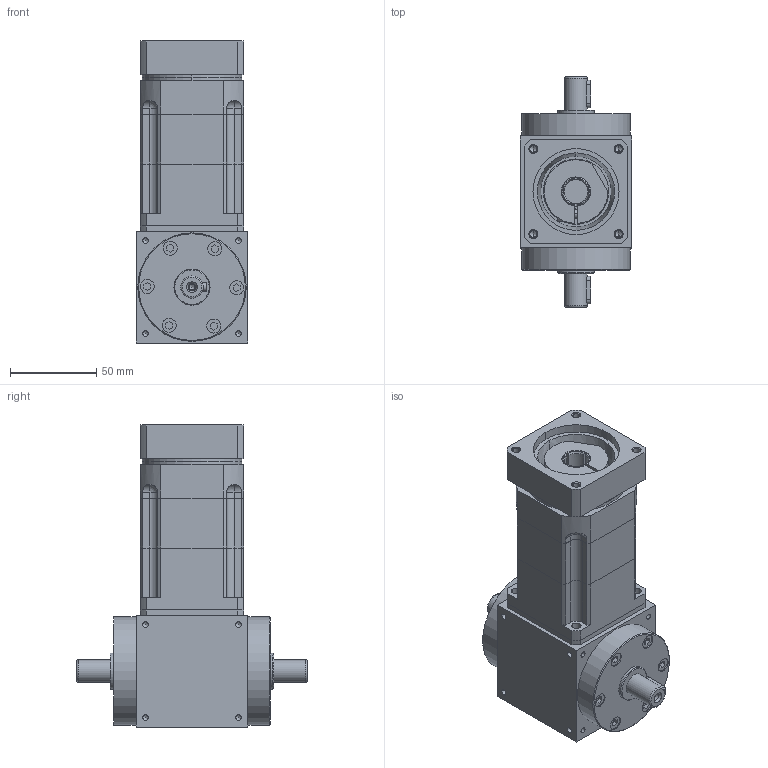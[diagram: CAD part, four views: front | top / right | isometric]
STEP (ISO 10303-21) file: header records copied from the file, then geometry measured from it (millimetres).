
FILE_DESCRIPTION(/* description */ (''),/* implementation_level */ '2;1');
FILE_NAME(/* name */ 'AT-065-FL(12-100)(14-50-70-M5).stp',/* time_stamp */ '2024-12-06T16:34:57+08:00',/* author */ (''),/* organization */ (''),/* preprocessor_version */ 'ST-DEVELOPER v16',/* originating_system */ 'SIEMENS PLM Software NX 10.0',/* authorisation */ '');
FILE_SCHEMA (('AP203_CONFIGURATION_CONTROLLED_3D_DESIGN_OF_MECHANICAL_PARTS_AND_ASSEMBLIES_MIM_LF { 1 0 10303 403 2 1 2}'));
Length unit declared in the file: millimetre
Products named in the file (1): AT-065-FL1_3-10__14-50-70-M4__stp
Bounding box: 65 x 134 x 175.5 mm (x, y, z)
Volume: 704879.7 mm3; surface area: 104003.3 mm2
Topology: 11 solids, 11 shells, 479 faces, 1286 edges, 833 vertices
Faces by surface type: plane 221, cylinder 190, cone 58, torus 6, sphere 4
Full cylindrical faces by diameter (mm): 3.3 x50, 4.5 x2, 5.5 x4, 8.133 x12, 13 x2, 21 x2, 30.347 x1, 50 x1, 63 x2
Entity records: 14345 total; most frequent: CARTESIAN_POINT 2848, DIRECTION 2447, ORIENTED_EDGE 2158, EDGE_CURVE 1079, AXIS2_PLACEMENT_3D 933, VERTEX_POINT 772, EDGE_LOOP 661, LINE 581
